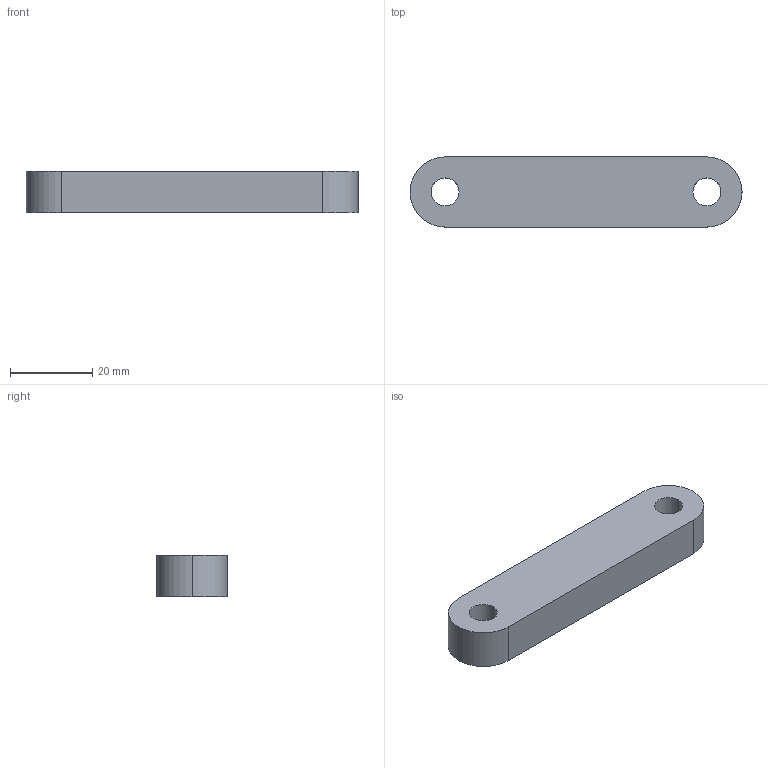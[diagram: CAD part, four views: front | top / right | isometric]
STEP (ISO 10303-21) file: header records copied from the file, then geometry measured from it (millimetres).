
FILE_DESCRIPTION (( 'STEP AP203' ), '1' );
FILE_NAME ('084.802.052.STEP', '2015-02-11T08:46:43', ( '' ), ( '' ), 'SwSTEP 2.0', 'SolidWorks 2012', '' );
FILE_SCHEMA (( 'CONFIG_CONTROL_DESIGN' ));
Length unit declared in the file: millimetre
Products named in the file (1): 084.802.052
Bounding box: 80.5 x 17 x 10 mm (x, y, z)
Volume: 12338.5 mm3; surface area: 4699 mm2
Topology: 1 solids, 1 shells, 11 faces, 27 edges, 18 vertices
Faces by surface type: cylinder 7, plane 4
Entity records: 420 total; most frequent: DIRECTION 65, CARTESIAN_POINT 57, ORIENTED_EDGE 54, EDGE_CURVE 27, AXIS2_PLACEMENT_3D 26, VERTEX_POINT 18, EDGE_LOOP 15, CIRCLE 14
